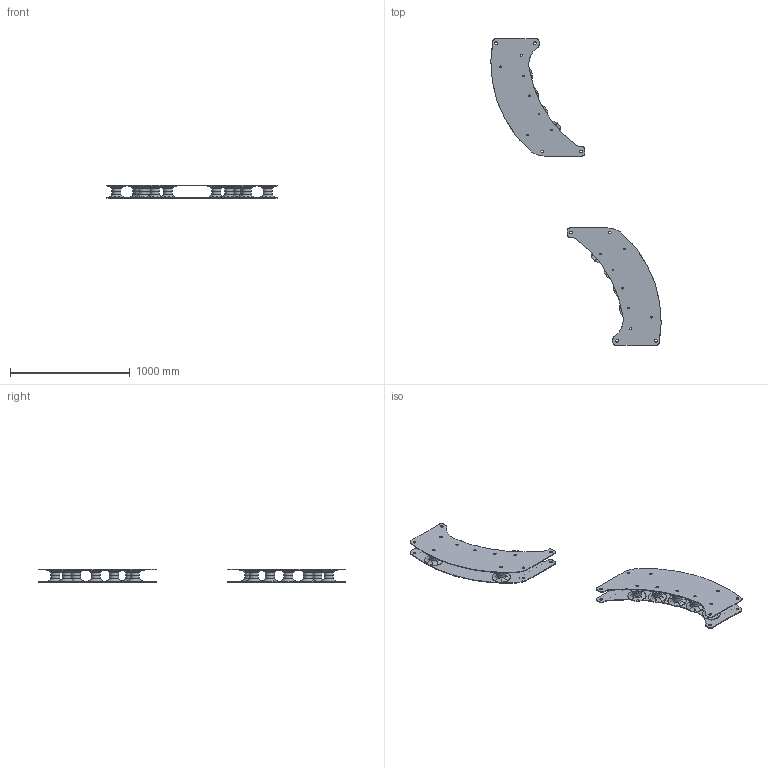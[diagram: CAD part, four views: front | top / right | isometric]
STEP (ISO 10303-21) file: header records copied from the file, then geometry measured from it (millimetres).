
FILE_DESCRIPTION(/* description */ (''),/* implementation_level */ '2;1');
FILE_NAME(/* name */ 'K:\NEMANJA\0700-6\CABLE REEL ACCESSORIES\01006602 CGSB\STP NEMA\73587.stp',/* time_stamp */ '2017-12-01T09:59:10+01:00',/* author */ ('zeldjo01'),/* organization */ ('Hillmar Industries Ltd.'),/* preprocessor_version */ 'ST-DEVELOPER v16.1',/* originating_system */ 'Autodesk Inventor 2016',/* authorisation */ '');
FILE_SCHEMA (('AUTOMOTIVE_DESIGN { 1 0 10303 214 3 1 1 }'));
Products named in the file (1): 73587_Shrinkwrap_1
Bounding box: 1424.12 x 2564.4 x 117 mm (x, y, z)
Volume: 15105775.2 mm3; surface area: 4480180.2 mm2
Topology: 18 solids, 18 shells, 3692 faces, 10118 edges, 6072 vertices
Faces by surface type: plane 2150, cylinder 1150, torus 280, cone 112
Full cylindrical faces by diameter (mm): 13 x28, 19.25 x42, 22 x16, 27.686 x28, 76.2 x28, 80.518 x28, 152.4 x28
Entity records: 124371 total; most frequent: CARTESIAN_POINT 29233, ORIENTED_EDGE 20260, DIRECTION 18296, EDGE_CURVE 9682, AXIS2_PLACEMENT_3D 6713, VERTEX_POINT 6002, LINE 4870, VECTOR 4870
